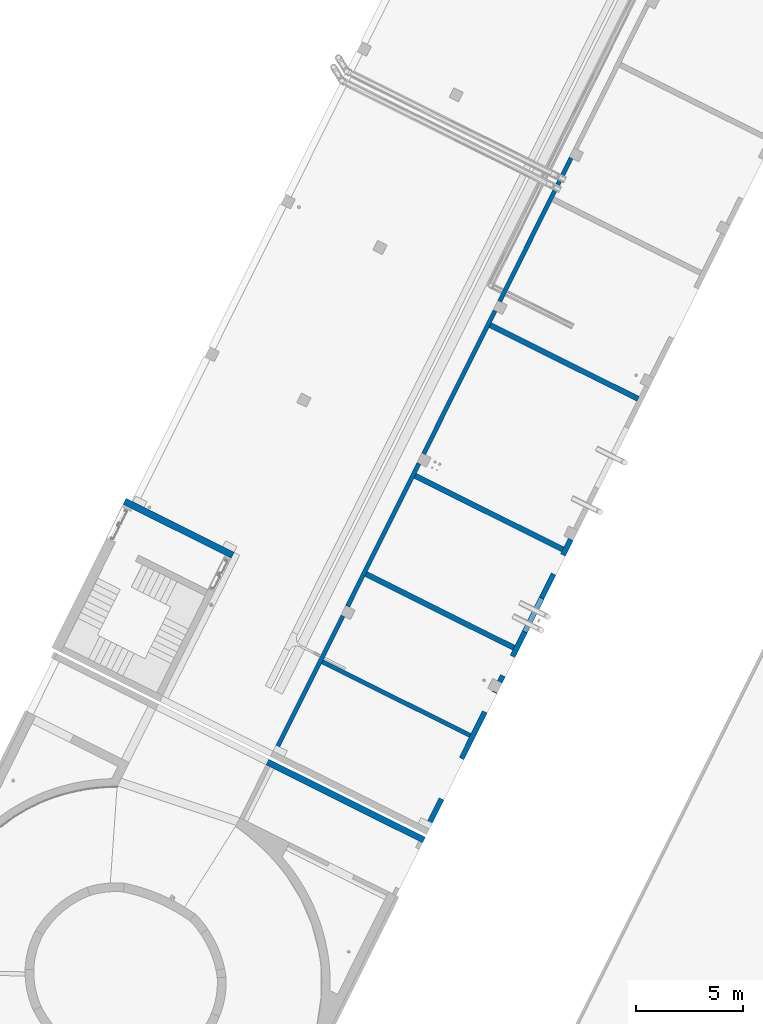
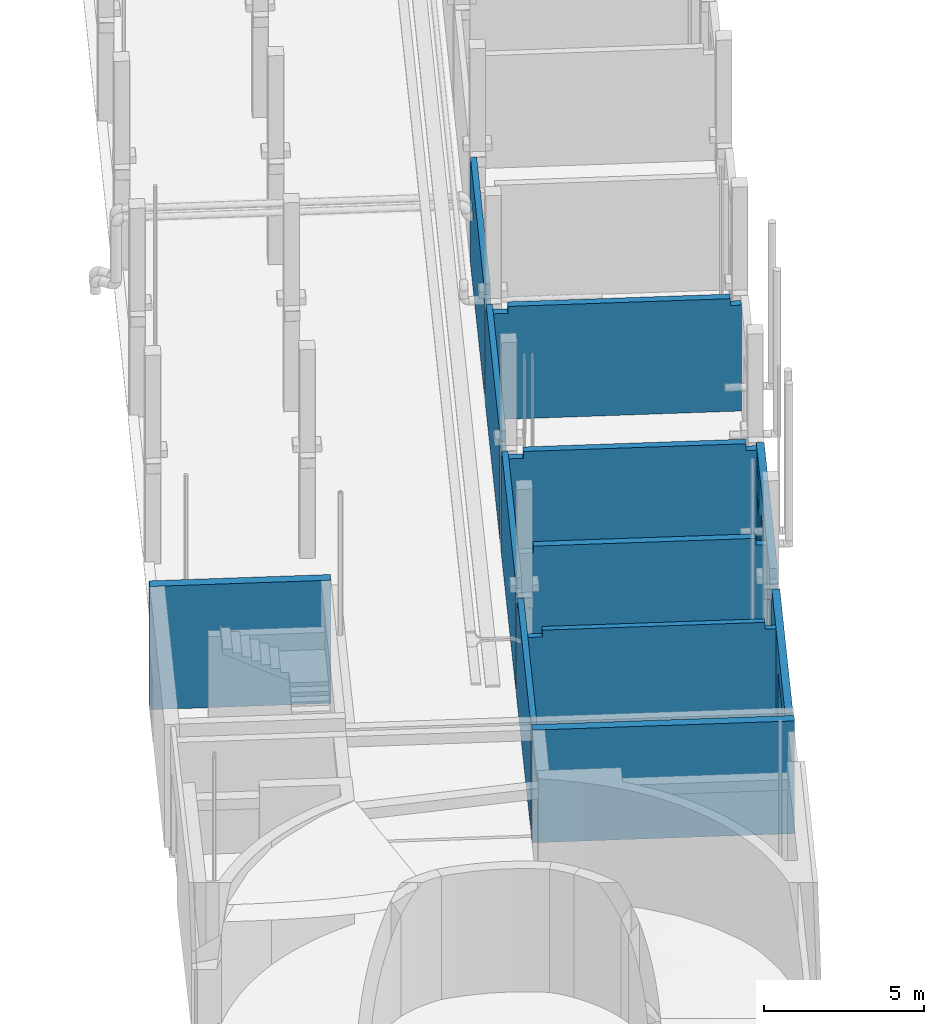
# One storey, part 10 of 91: 12 walls, 26 openings.
"""IFC2X3 building model written with IfcOpenShell, lengths in metres."""

from ifc_helpers import new_model, entity, si_unit, converted_unit, derived_unit, direction, frame, frame_2d, origin, origin_2d_with_axis, place, context, subcontext, project, spatial, polyline, rectangle, circle, outline, extrude, clip, halfspace, bounded_halfspace, material, layer, layer_set, layer_usage, type_object, element, save


model = new_model("IFC2X3")

# Units and contexts
model_context = context("Model", 3, precision=1e-05, world=origin(), true_north=direction((0.894925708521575, 0.446215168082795)))
context_of_model = context(None, 3, precision=1e-05, world=origin(), true_north=direction((0.894925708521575, 0.446215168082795)))
body_context = subcontext(model_context, "Body", "Model", "MODEL_VIEW")
ifc_project = project(units=[si_unit("LENGTHUNIT", "METRE"), si_unit("AREAUNIT", "SQUARE_METRE"), si_unit("VOLUMEUNIT", "CUBIC_METRE"), converted_unit("PLANEANGLEUNIT", "DEGREE", entity("IfcRatioMeasure", 0.0174532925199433), si_unit("PLANEANGLEUNIT", "RADIAN"), dimensions=[0, 0, 0, 0, 0, 0, 0]), si_unit("MASSUNIT", "GRAM", prefix="KILO"), si_unit("TIMEUNIT", "SECOND"), si_unit("FREQUENCYUNIT", "HERTZ"), si_unit("THERMODYNAMICTEMPERATUREUNIT", "DEGREE_CELSIUS"), derived_unit("THERMALTRANSMITTANCEUNIT", [(si_unit("MASSUNIT", "GRAM", prefix="KILO"), 1), (si_unit("THERMODYNAMICTEMPERATUREUNIT", "KELVIN"), -1), (si_unit("TIMEUNIT", "SECOND"), -3)]), derived_unit("VOLUMETRICFLOWRATEUNIT", [(si_unit("LENGTHUNIT", "METRE"), 3), (si_unit("TIMEUNIT", "SECOND"), -1)]), si_unit("ELECTRICCURRENTUNIT", "AMPERE"), si_unit("ELECTRICVOLTAGEUNIT", "VOLT"), si_unit("POWERUNIT", "WATT"), si_unit("FORCEUNIT", "NEWTON", prefix="KILO"), si_unit("ILLUMINANCEUNIT", "LUX"), si_unit("LUMINOUSFLUXUNIT", "LUMEN"), si_unit("LUMINOUSINTENSITYUNIT", "CANDELA"), si_unit("PRESSUREUNIT", "PASCAL")], contexts=[model_context, context_of_model])

# Site, building, storey
site_placement = place(None, frame((218.228324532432, 584.720189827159, 0.0), z_axis=(0.0, 0.0, 1.0), x_axis=(0.446215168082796, 0.894925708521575, 0.0)))
site = spatial("IfcSite", under=ifc_project, at=site_placement, Name="Default", CompositionType="ELEMENT")
building_placement = place(site_placement, origin())
building = spatial("IfcBuilding", under=site, at=building_placement, CompositionType="ELEMENT")
storey_placement = place(building_placement, origin())
storey = spatial("IfcBuildingStorey", under=building, at=storey_placement, Name="0 - Piano Terra", CompositionType="ELEMENT", Elevation=0.0)

# Wall
ifc_material_1 = material(Name="Default - Calcestruzzo")
ifc_layer_1 = layer(ifc_material_1, 0.3)
ifc_material_2 = material(Name="Intonaco - Bianco")
ifc_layer_2 = layer(ifc_material_2, 0.01)
ifc_layer_set_1 = layer_set([ifc_layer_1, ifc_layer_2], Name="Muro di base:Setto CA rivestito int - 31 cm")
ifc_layer_usage_1 = layer_usage(ifc_layer_set_1, "AXIS2", "NEGATIVE", 0.155)
wall_type_1 = type_object("IfcWallType", Name="Muro di base:Setto CA rivestito int - 31 cm", PredefinedType="STANDARD", material=ifc_layer_set_1)
wall_1_placement = place(storey_placement, frame((-52.8544493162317, 6.45892100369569, 0.0), z_axis=(0.0, 0.0, 1.0), x_axis=(0.0, -1.0, 0.0)))
element("IfcWallStandardCase", 1, at=wall_1_placement, inside=storey, type_object=wall_type_1, material=ifc_layer_usage_1, Name="Muro di base:Setto CA rivestito int - 31 cm", ObjectType="Muro di base:Setto CA rivestito int - 31 cm", context=body_context, shape_type="SweptSolid", body=[
    extrude(rectangle(XDim=5.65999999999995, YDim=0.309999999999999, at=frame_2d((2.82999999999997, 0.0), x_axis=(-1.0, 0.0))), origin(), (0.0, 0.0, 1.0), 4.69),
])

# Wall, openings
ifc_material_3 = material(Name="Sabbia e Calcestruzzo")
ifc_layer_3 = layer(ifc_material_3, 0.2)
ifc_layer_set_2 = layer_set([ifc_layer_3], Name="Muro di base:Blocchetti - 20 cm")
ifc_layer_usage_2 = layer_usage(ifc_layer_set_2, "AXIS2", "NEGATIVE", 0.1)
wall_type_2 = type_object("IfcWallType", Name="Muro di base:Blocchetti - 20 cm", PredefinedType="STANDARD", material=ifc_layer_set_2)
wall_2_placement = place(storey_placement, frame((-60.2294493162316, -5.10107899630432, 0.0)))
wall_2 = element("IfcWallStandardCase", 2, at=wall_2_placement, inside=storey, type_object=wall_type_2, material=ifc_layer_usage_2, Name="Muro di base:Blocchetti - 20 cm", ObjectType="Muro di base:Blocchetti - 20 cm", context=body_context, shape_type="Clipping", body=[
    clip(clip(extrude(rectangle(XDim=7.13568790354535, YDim=0.2, at=frame_2d((3.56784395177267, -4.85722573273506e-17), x_axis=(-1.0, 0.0))), origin(), (0.0, 0.0, 1.0), 4.03), halfspace(frame((0.299700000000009, 0.0, 4.03), z_axis=(-0.80028801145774, 0.0, 0.599615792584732), x_axis=(0.0, 1.0, 0.0)), False)), halfspace(frame((7.13568790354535, 0.0, 3.63000000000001), z_axis=(0.799999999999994, 0.0, 0.600000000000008), x_axis=(0.0, 1.0, 0.0)), False)),
])
opening_1_placement = place(wall_2_placement, origin())
element("IfcOpeningElement", 3, at=opening_1_placement, cuts=wall_2, Name="Muro di base:Blocchetti - 20 cm", ObjectType="Opening", context=body_context, shape_type="SweptSolid", body=[
    extrude(outline(polyline([(-0.226666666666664, -0.0799999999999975), (0.273333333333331, -0.0799999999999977), (-0.0466666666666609, 0.160000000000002), (-0.226666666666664, -0.0799999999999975)])), frame((6.93568790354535, 0.1, 3.76333333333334), z_axis=(0.0, -1.0, 0.0), x_axis=(-0.600000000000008, 0.0, 0.799999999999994)), (0.0, 0.0, 1.0), 0.2),
])
opening_2_placement = place(wall_2_placement, origin())
element("IfcOpeningElement", 4, at=opening_2_placement, cuts=wall_2, Name="Muro di base:Blocchetti - 20 cm", ObjectType="Opening", context=body_context, shape_type="SweptSolid", body=[
    extrude(outline(polyline([(-0.273311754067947, -0.0799487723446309), (0.226508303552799, -0.0799487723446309), (0.0468034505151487, 0.159897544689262), (-0.273311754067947, -0.0799487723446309)])), frame((0.199800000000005, 0.1, 3.76333333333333), z_axis=(0.0, -1.0, 0.0), x_axis=(-0.599615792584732, 0.0, -0.80028801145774)), (0.0, 0.0, 1.0), 0.2),
])

ifc_layer_usage_3 = layer_usage(ifc_layer_set_2, "AXIS2", "NEGATIVE", 0.1)
wall_3_placement = place(storey_placement, frame((-52.5937614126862, -5.10107899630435, 0.0)))
wall_3 = element("IfcWallStandardCase", 5, at=wall_3_placement, inside=storey, type_object=wall_type_2, material=ifc_layer_usage_3, Name="Muro di base:Blocchetti - 20 cm", ObjectType="Muro di base:Blocchetti - 20 cm", context=body_context, shape_type="Clipping", body=[
    clip(clip(extrude(rectangle(XDim=7.49309550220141, YDim=0.2, at=frame_2d((3.74654775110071, 1.38777878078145e-16), x_axis=(-1.0, 0.0))), origin(), (0.0, 0.0, 1.0), 4.03), halfspace(frame((7.49309550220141, 0.0, 3.63000000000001), z_axis=(0.799999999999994, 0.0, 0.600000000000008), x_axis=(0.0, 1.0, 0.0)), False)), halfspace(frame((0.3, 0.0, 4.03), z_axis=(-0.799999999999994, 0.0, 0.600000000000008), x_axis=(0.0, 1.0, 0.0)), False)),
])
opening_3_placement = place(wall_3_placement, origin())
element("IfcOpeningElement", 6, at=opening_3_placement, cuts=wall_3, Name="Muro di base:Blocchetti - 20 cm", ObjectType="Opening", context=body_context, shape_type="SweptSolid", body=[
    extrude(outline(polyline([(-0.226666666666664, -0.0799999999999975), (0.273333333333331, -0.0799999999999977), (-0.0466666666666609, 0.160000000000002), (-0.226666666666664, -0.0799999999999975)])), frame((7.29309550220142, 0.100000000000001, 3.76333333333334), z_axis=(0.0, -1.0, 0.0), x_axis=(-0.600000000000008, 0.0, 0.799999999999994)), (0.0, 0.0, 1.0), 0.2),
])
opening_4_placement = place(wall_3_placement, origin())
element("IfcOpeningElement", 7, at=opening_4_placement, cuts=wall_3, Name="Muro di base:Blocchetti - 20 cm", ObjectType="Opening", context=body_context, shape_type="SweptSolid", body=[
    extrude(outline(polyline([(-0.273333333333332, -0.0799999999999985), (0.226666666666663, -0.0799999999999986), (0.0466666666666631, 0.160000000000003), (-0.273333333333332, -0.0799999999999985)])), frame((0.199999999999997, 0.0999999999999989, 3.76333333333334), z_axis=(0.0, -1.0, 0.0), x_axis=(-0.600000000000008, 0.0, -0.799999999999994)), (0.0, 0.0, 1.0), 0.2),
])

ifc_layer_usage_4 = layer_usage(ifc_layer_set_2, "AXIS2", "NEGATIVE", 0.1)
wall_4_placement = place(storey_placement, frame((-44.6006659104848, -5.10107899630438, 0.0)))
wall_4 = element("IfcWallStandardCase", 8, at=wall_4_placement, inside=storey, type_object=wall_type_2, material=ifc_layer_usage_4, Name="Muro di base:Blocchetti - 20 cm", ObjectType="Muro di base:Blocchetti - 20 cm", context=body_context, shape_type="Clipping", body=[
    clip(clip(extrude(rectangle(XDim=7.50281382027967, YDim=0.2, at=frame_2d((3.75140691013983, 0.0), x_axis=(-1.0, 0.0))), origin(), (0.0, 0.0, 1.0), 4.03), halfspace(frame((7.50281382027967, 0.0, 3.63000000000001), z_axis=(0.79999999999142, 0.0, 0.60000000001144), x_axis=(0.0, 1.0, 0.0)), False)), halfspace(frame((0.299999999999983, 0.0, 4.03), z_axis=(-0.800000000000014, 0.0, 0.599999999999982), x_axis=(0.0, 1.0, 0.0)), False)),
])
opening_5_placement = place(wall_4_placement, origin())
element("IfcOpeningElement", 9, at=opening_5_placement, cuts=wall_4, Name="Muro di base:Blocchetti - 20 cm", ObjectType="Opening", context=body_context, shape_type="SweptSolid", body=[
    extrude(circle(Radius=0.125, at=origin_2d_with_axis()), frame((0.774999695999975, 0.1, 3.29999999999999), z_axis=(0.0, -1.0, 0.0), x_axis=(-1.0, 0.0, 0.0)), (0.0, 0.0, 1.0), 0.2),
])
opening_6_placement = place(wall_4_placement, origin())
element("IfcOpeningElement", 10, at=opening_6_placement, cuts=wall_4, Name="Muro di base:Blocchetti - 20 cm", ObjectType="Opening", context=body_context, shape_type="SweptSolid", body=[
    extrude(outline(polyline([(-0.226666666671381, -0.0800000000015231), (0.273333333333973, -0.080000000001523), (-0.046666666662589, 0.160000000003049), (-0.226666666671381, -0.0800000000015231)])), frame((7.30281382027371, 0.100000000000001, 3.76333333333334), z_axis=(0.0, -1.0, 0.0), x_axis=(-0.60000000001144, 0.0, 0.79999999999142)), (0.0, 0.0, 1.0), 0.2),
])
opening_7_placement = place(wall_4_placement, origin())
element("IfcOpeningElement", 11, at=opening_7_placement, cuts=wall_4, Name="Muro di base:Blocchetti - 20 cm", ObjectType="Opening", context=body_context, shape_type="SweptSolid", body=[
    extrude(outline(polyline([(-0.273333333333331, -0.0799999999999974), (0.226666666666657, -0.0799999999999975), (0.0466666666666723, 0.159999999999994), (-0.273333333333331, -0.0799999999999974)])), frame((0.199999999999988, 0.1, 3.76333333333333), z_axis=(0.0, -1.0, 0.0), x_axis=(-0.599999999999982, 0.0, -0.800000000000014)), (0.0, 0.0, 1.0), 0.2),
])

ifc_layer_usage_5 = layer_usage(ifc_layer_set_2, "AXIS2", "NEGATIVE", 0.1)
wall_5_placement = place(storey_placement, frame((-36.5978520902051, -5.1010789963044, 0.0)))
wall_5 = element("IfcWallStandardCase", 12, at=wall_5_placement, inside=storey, type_object=wall_type_2, material=ifc_layer_usage_5, Name="Muro di base:Blocchetti - 20 cm", ObjectType="Muro di base:Blocchetti - 20 cm", context=body_context, shape_type="Clipping", body=[
    clip(clip(extrude(rectangle(XDim=7.50563159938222, YDim=0.2, at=frame_2d((3.75281579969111, 0.0), x_axis=(-1.0, 0.0))), origin(), (0.0, 0.0, 1.0), 4.03), halfspace(frame((7.50563159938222, 0.0, 3.63000000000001), z_axis=(0.79999999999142, 0.0, 0.60000000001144), x_axis=(0.0, 1.0, 0.0)), False)), halfspace(frame((0.299999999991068, 0.0, 4.03), z_axis=(-0.800000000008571, 0.0, 0.599999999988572), x_axis=(0.0, 1.0, 0.0)), False)),
])
opening_8_placement = place(wall_5_placement, origin())
element("IfcOpeningElement", 13, at=opening_8_placement, cuts=wall_5, Name="Muro di base:Blocchetti - 20 cm", ObjectType="Opening", context=body_context, shape_type="SweptSolid", body=[
    extrude(circle(Radius=0.17, at=frame_2d((0.0, -5.41433564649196e-16), x_axis=(1.0, 0.0))), frame((6.45563159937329, 0.1, 2.67), z_axis=(0.0, -1.0, 0.0), x_axis=(-1.0, 0.0, 0.0)), (0.0, 0.0, 1.0), 0.2),
])
opening_9_placement = place(wall_5_placement, origin())
element("IfcOpeningElement", 14, at=opening_9_placement, cuts=wall_5, Name="Muro di base:Blocchetti - 20 cm", ObjectType="Opening", context=body_context, shape_type="SweptSolid", body=[
    extrude(circle(Radius=0.17, at=frame_2d((0.0, -5.41433564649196e-16), x_axis=(1.0, 0.0))), frame((5.95563159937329, 0.1, 2.67), z_axis=(0.0, -1.0, 0.0), x_axis=(-1.0, 0.0, 0.0)), (0.0, 0.0, 1.0), 0.2),
])
opening_10_placement = place(wall_5_placement, origin())
element("IfcOpeningElement", 15, at=opening_10_placement, cuts=wall_5, Name="Muro di base:Blocchetti - 20 cm", ObjectType="Opening", context=body_context, shape_type="SweptSolid", body=[
    extrude(outline(polyline([(-0.226666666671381, -0.0800000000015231), (0.273333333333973, -0.080000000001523), (-0.046666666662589, 0.160000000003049), (-0.226666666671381, -0.0800000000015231)])), frame((7.30563159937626, 0.0999999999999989, 3.76333333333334), z_axis=(0.0, -1.0, 0.0), x_axis=(-0.60000000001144, 0.0, 0.79999999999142)), (0.0, 0.0, 1.0), 0.2),
])
opening_11_placement = place(wall_5_placement, origin())
element("IfcOpeningElement", 16, at=opening_11_placement, cuts=wall_5, Name="Muro di base:Blocchetti - 20 cm", ObjectType="Opening", context=body_context, shape_type="SweptSolid", body=[
    extrude(outline(polyline([(-0.273333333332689, -0.0799999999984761), (0.22666666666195, -0.0799999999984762), (0.0466666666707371, 0.159999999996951), (-0.273333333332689, -0.0799999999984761)])), frame((0.199999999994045, 0.1, 3.76333333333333), z_axis=(0.0, -1.0, 0.0), x_axis=(-0.599999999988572, 0.0, -0.800000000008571)), (0.0, 0.0, 1.0), 0.2),
])

ifc_layer_usage_6 = layer_usage(ifc_layer_set_2, "AXIS2", "NEGATIVE", 0.1)
wall_6_placement = place(storey_placement, frame((-55.4537571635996, -12.9510789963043, 0.0), z_axis=(0.0, 0.0, 1.0), x_axis=(0.0, 1.0, 0.0)))
wall_6 = element("IfcWallStandardCase", 17, at=wall_6_placement, inside=storey, type_object=wall_type_2, material=ifc_layer_usage_6, Name="Muro di base:Blocchetti - 20 cm", ObjectType="Muro di base:Blocchetti - 20 cm", context=body_context, shape_type="Clipping", body=[
    clip(clip(extrude(rectangle(XDim=7.74999999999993, YDim=0.200000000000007, at=frame_2d((3.87499999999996, 0.0), x_axis=(-1.0, 0.0))), origin(), (0.0, 0.0, 1.0), 4.29), halfspace(frame((0.34999999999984, 0.0, 4.29), z_axis=(-0.480145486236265, 0.0, 0.877188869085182), x_axis=(0.0, 1.0, 0.0)), False)), halfspace(frame((7.84999999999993, 0.0, 4.03), z_axis=(0.427379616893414, 0.0, 0.904072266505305), x_axis=(0.0, 1.0, 0.0)), False)),
])
opening_12_placement = place(wall_6_placement, origin())
element("IfcOpeningElement", 18, at=opening_12_placement, cuts=wall_6, Name="Muro di base:Blocchetti - 20 cm", ObjectType="Opening", context=body_context, shape_type="SweptSolid", body=[
    extrude(outline(polyline([(-0.368532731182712, -0.0783529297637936), (0.239825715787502, -0.0783529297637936), (0.128707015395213, 0.156705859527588), (-0.368532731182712, -0.0783529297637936)])), frame((7.48333333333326, 0.100000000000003, 4.11666666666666), z_axis=(0.0, -1.0, 0.0), x_axis=(-0.904072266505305, 0.0, 0.427379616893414)), (0.0, 0.0, 1.0), 0.2),
])
opening_13_placement = place(wall_6_placement, origin())
element("IfcOpeningElement", 19, at=opening_13_placement, cuts=wall_6, Name="Muro di base:Blocchetti - 20 cm", ObjectType="Opening", context=body_context, shape_type="SweptSolid", body=[
    extrude(outline(polyline([(-0.222113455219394, -0.0760230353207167), (0.319389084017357, -0.0760230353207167), (-0.0972756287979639, 0.152046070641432), (-0.222113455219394, -0.0760230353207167)])), frame((0.19166666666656, 0.100000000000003, 4.11666666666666), z_axis=(0.0, -1.0, 0.0), x_axis=(-0.877188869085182, 0.0, -0.480145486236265)), (0.0, 0.0, 1.0), 0.2),
])

ifc_layer_4 = layer(ifc_material_3, 0.25)
ifc_layer_set_3 = layer_set([ifc_layer_4], Name="Muro di base:Blocchetti - 25 cm")
ifc_layer_usage_7 = layer_usage(ifc_layer_set_3, "AXIS2", "NEGATIVE", 0.125)
wall_type_3 = type_object("IfcWallType", Name="Muro di base:Blocchetti - 25 cm", PredefinedType="STANDARD", material=ifc_layer_set_3)
wall_7_placement = place(storey_placement, frame((-53.1037614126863, -13.0760789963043, 0.0), z_axis=(0.0, 0.0, 1.0), x_axis=(-1.0, 0.0, 0.0)))
wall_7 = element("IfcWallStandardCase", 20, at=wall_7_placement, inside=storey, type_object=wall_type_3, material=ifc_layer_usage_7, Name="Muro di base:Blocchetti - 25 cm", ObjectType="Muro di base:Blocchetti - 25 cm", context=body_context, shape_type="Clipping", body=[
    clip(clip(extrude(rectangle(XDim=7.12568790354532, YDim=0.249999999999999, at=frame_2d((3.56284395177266, 0.0), x_axis=(-1.0, 0.0))), origin(), (0.0, 0.0, 1.0), 4.03000000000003), halfspace(frame((7.12568790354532, 0.0, 3.63), z_axis=(0.800288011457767, 0.0, 0.599615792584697), x_axis=(0.0, 1.0, 0.0)), False)), halfspace(frame((0.299999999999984, 0.0, 4.03), z_axis=(-0.800000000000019, 0.0, 0.599999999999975), x_axis=(0.0, 1.0, 0.0)), False)),
])
opening_14_placement = place(wall_7_placement, frame((5.61999575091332, 1.399, 0.0)))
element("IfcOpeningElement", 21, at=opening_14_placement, cuts=wall_7, Name="Muro di base:Blocchetti - 25 cm", ObjectType="Opening", context=body_context, shape_type="SweptSolid", body=[
    extrude(rectangle(XDim=3.1, YDim=2.12, at=frame_2d((0.0, 0.0), x_axis=(0.0, 1.0))), frame((-1.06, -3.048, 1.55), z_axis=(0.0, 1.0, 0.0), x_axis=(1.0, 0.0, 0.0)), (0.0, 0.0, 1.0), 3.048),
])
opening_15_placement = place(wall_7_placement, frame((1.04999575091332, 1.399, 0.0)))
element("IfcOpeningElement", 22, at=opening_15_placement, cuts=wall_7, Name="Muro di base:Blocchetti - 25 cm", ObjectType="Opening", context=body_context, shape_type="SweptSolid", body=[
    extrude(rectangle(XDim=2.46, YDim=1.02, at=frame_2d((4.32986979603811e-15, 0.0), x_axis=(0.0, 1.0))), frame((-0.510000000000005, -3.048, 1.23), z_axis=(0.0, 1.0, 0.0), x_axis=(1.0, 0.0, 0.0)), (0.0, 0.0, 1.0), 3.048),
])
opening_16_placement = place(wall_7_placement, origin())
element("IfcOpeningElement", 23, at=opening_16_placement, cuts=wall_7, Name="Muro di base:Blocchetti - 25 cm", ObjectType="Opening", context=body_context, shape_type="SweptSolid", body=[
    extrude(outline(polyline([(-0.226508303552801, -0.0799487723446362), (0.27331175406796, -0.0799487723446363), (-0.046803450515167, 0.159897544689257), (-0.226508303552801, -0.0799487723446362)])), frame((6.92588790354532, 0.125, 3.76333333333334), z_axis=(0.0, -1.0, 0.0), x_axis=(-0.599615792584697, 0.0, 0.800288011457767)), (0.0, 0.0, 1.0), 0.25),
])
opening_17_placement = place(wall_7_placement, origin())
element("IfcOpeningElement", 24, at=opening_17_placement, cuts=wall_7, Name="Muro di base:Blocchetti - 25 cm", ObjectType="Opening", context=body_context, shape_type="SweptSolid", body=[
    extrude(outline(polyline([(-0.27333333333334, -0.0799999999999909), (0.226666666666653, -0.0799999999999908), (0.0466666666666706, 0.160000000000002), (-0.27333333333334, -0.0799999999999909)])), frame((0.199999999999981, 0.125, 3.76333333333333), z_axis=(0.0, -1.0, 0.0), x_axis=(-0.599999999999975, 0.0, -0.800000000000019)), (0.0, 0.0, 1.0), 0.25),
])

ifc_layer_usage_8 = layer_usage(ifc_layer_set_3, "AXIS2", "NEGATIVE", 0.125)
wall_8_placement = place(storey_placement, frame((-45.1106659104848, -13.0760789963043, 0.0), z_axis=(0.0, 0.0, 1.0), x_axis=(-1.0, 0.0, 0.0)))
wall_8 = element("IfcWallStandardCase", 25, at=wall_8_placement, inside=storey, type_object=wall_type_3, material=ifc_layer_usage_8, Name="Muro di base:Blocchetti - 25 cm", ObjectType="Muro di base:Blocchetti - 25 cm", context=body_context, shape_type="Clipping", body=[
    clip(clip(extrude(rectangle(XDim=7.47309550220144, YDim=0.249999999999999, at=frame_2d((3.73654775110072, 0.0), x_axis=(-1.0, 0.0))), origin(), (0.0, 0.0, 1.0), 4.03000000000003), halfspace(frame((0.300000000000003, 0.0, 4.03), z_axis=(-0.799999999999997, 0.0, 0.600000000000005), x_axis=(0.0, 1.0, 0.0)), False)), halfspace(frame((7.47309550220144, 0.0, 3.63), z_axis=(0.800000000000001, 0.0, 0.599999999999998), x_axis=(0.0, 1.0, 0.0)), False)),
])
opening_18_placement = place(wall_8_placement, frame((5.13309550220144, 0.125000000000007, 2.04)))
element("IfcOpeningElement", 26, at=opening_18_placement, cuts=wall_8, Name="Muro di base:Blocchetti - 25 cm", ObjectType="Opening", context=body_context, shape_type="SweptSolid", body=[
    extrude(rectangle(XDim=1.02, YDim=2.32, at=frame_2d((-1.11022302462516e-16, 4.32986979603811e-15), x_axis=(1.0, 0.0))), frame((-1.15999999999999, -0.250000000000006, 0.51), z_axis=(0.0, 1.0, 0.0), x_axis=(0.0, 0.0, -1.0)), (0.0, 0.0, 1.0), 0.249999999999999),
])
opening_19_placement = place(wall_8_placement, frame((7.1487675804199, 1.399, 0.0)))
element("IfcOpeningElement", 27, at=opening_19_placement, cuts=wall_8, Name="Muro di base:Blocchetti - 25 cm", ObjectType="Opening", context=body_context, shape_type="SweptSolid", body=[
    extrude(rectangle(XDim=2.46, YDim=1.02, at=frame_2d((4.32986979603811e-15, 0.0), x_axis=(0.0, 1.0))), frame((-0.510000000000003, -3.048, 1.23), z_axis=(0.0, 1.0, 0.0), x_axis=(1.0, 0.0, 0.0)), (0.0, 0.0, 1.0), 3.048),
])
opening_20_placement = place(wall_8_placement, frame((1.81469701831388, 1.399, 0.0)))
element("IfcOpeningElement", 28, at=opening_20_placement, cuts=wall_8, Name="Muro di base:Blocchetti - 25 cm", ObjectType="Opening", context=body_context, shape_type="SweptSolid", body=[
    extrude(rectangle(XDim=2.25, YDim=0.999999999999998, at=frame_2d((0.0, 0.0), x_axis=(0.0, 1.0))), frame((-0.500000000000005, -3.048, 1.125), z_axis=(0.0, 1.0, 0.0), x_axis=(1.0, 0.0, 0.0)), (0.0, 0.0, 1.0), 3.048),
])
opening_21_placement = place(wall_8_placement, frame((4.84469701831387, 1.39900000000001, 0.1)))
element("IfcOpeningElement", 29, at=opening_21_placement, cuts=wall_8, Name="Muro di base:Blocchetti - 25 cm", ObjectType="Opening", context=body_context, shape_type="SweptSolid", body=[
    extrude(rectangle(XDim=1.94, YDim=1.77, at=frame_2d((0.0, 0.0), x_axis=(0.0, 1.0))), frame((-0.884999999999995, -3.04800000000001, 0.97), z_axis=(0.0, 1.0, 0.0), x_axis=(1.0, 0.0, 0.0)), (0.0, 0.0, 1.0), 3.048),
])
opening_22_placement = place(wall_8_placement, frame((1.81469701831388, 1.399, 2.44)))
element("IfcOpeningElement", 30, at=opening_22_placement, cuts=wall_8, Name="Muro di base:Blocchetti - 25 cm", ObjectType="Opening", context=body_context, shape_type="SweptSolid", body=[
    extrude(rectangle(XDim=1.07, YDim=0.999999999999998, at=frame_2d((0.0, 0.0), x_axis=(0.0, 1.0))), frame((-0.500000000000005, -3.048, 0.535), z_axis=(0.0, 1.0, 0.0), x_axis=(1.0, 0.0, 0.0)), (0.0, 0.0, 1.0), 3.048),
])
opening_23_placement = place(wall_8_placement, origin())
element("IfcOpeningElement", 31, at=opening_23_placement, cuts=wall_8, Name="Muro di base:Blocchetti - 25 cm", ObjectType="Opening", context=body_context, shape_type="SweptSolid", body=[
    extrude(circle(Radius=0.160000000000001, at=origin_2d_with_axis()), frame((4.43102930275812, 0.125, 3.04999999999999), z_axis=(0.0, -1.0, 0.0), x_axis=(-1.0, 0.0, 0.0)), (0.0, 0.0, 1.0), 0.25),
])
opening_24_placement = place(wall_8_placement, origin())
element("IfcOpeningElement", 32, at=opening_24_placement, cuts=wall_8, Name="Muro di base:Blocchetti - 25 cm", ObjectType="Opening", context=body_context, shape_type="SweptSolid", body=[
    extrude(circle(Radius=0.160000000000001, at=origin_2d_with_axis()), frame((3.72630032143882, 0.125, 3.04999999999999), z_axis=(0.0, -1.0, 0.0), x_axis=(-1.0, 0.0, 0.0)), (0.0, 0.0, 1.0), 0.25),
])
opening_25_placement = place(wall_8_placement, origin())
element("IfcOpeningElement", 33, at=opening_25_placement, cuts=wall_8, Name="Muro di base:Blocchetti - 25 cm", ObjectType="Opening", context=body_context, shape_type="SweptSolid", body=[
    extrude(outline(polyline([(-0.226666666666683, -0.0800000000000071), (0.273333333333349, -0.0800000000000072), (-0.0466666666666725, 0.160000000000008), (-0.226666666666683, -0.0800000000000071)])), frame((7.27309550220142, 0.125, 3.76333333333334), z_axis=(0.0, -1.0, 0.0), x_axis=(-0.599999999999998, 0.0, 0.800000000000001)), (0.0, 0.0, 1.0), 0.25),
])
opening_26_placement = place(wall_8_placement, origin())
element("IfcOpeningElement", 34, at=opening_26_placement, cuts=wall_8, Name="Muro di base:Blocchetti - 25 cm", ObjectType="Opening", context=body_context, shape_type="SweptSolid", body=[
    extrude(outline(polyline([(-0.273333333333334, -0.079999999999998), (0.226666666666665, -0.079999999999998), (0.0466666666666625, 0.160000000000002), (-0.273333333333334, -0.079999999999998)])), frame((0.199999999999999, 0.125000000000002, 3.76333333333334), z_axis=(0.0, -1.0, 0.0), x_axis=(-0.600000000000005, 0.0, -0.799999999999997)), (0.0, 0.0, 1.0), 0.25),
])

# Walls
ifc_layer_usage_9 = layer_usage(ifc_layer_set_3, "AXIS2", "NEGATIVE", 0.125)
wall_9_placement = place(storey_placement, frame((-50.8544334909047, -12.9510789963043, 0.0), z_axis=(0.0, 0.0, 1.0), x_axis=(0.0, 1.0, 0.0)))
element("IfcWallStandardCase", 35, at=wall_9_placement, inside=storey, type_object=wall_type_3, material=ifc_layer_usage_9, Name="Muro di base:Blocchetti - 25 cm", ObjectType="Muro di base:Blocchetti - 25 cm", context=body_context, shape_type="Clipping", body=[
    clip(clip(clip(clip(extrude(rectangle(XDim=7.74999999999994, YDim=0.249999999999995, at=frame_2d((3.87499999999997, 0.0), x_axis=(-1.0, 0.0))), origin(), (0.0, 0.0, 1.0), 4.29), bounded_halfspace(frame((0.350000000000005, -0.125000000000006, 4.03), z_axis=(0.0, 0.0, -1.0), x_axis=(0.0, 1.0, 0.0)), True, frame((0.350000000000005, -0.125000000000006, 4.03), z_axis=(0.0, 0.0, -1.0), x_axis=(0.0, 1.0, 0.0)), polyline([(0.0, 0.0), (0.0, -0.350000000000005), (0.250000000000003, -0.350000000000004), (0.250000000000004, 0.0), (0.0, 0.0)]))), bounded_halfspace(frame((0.350000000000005, 0.124999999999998, 4.03), z_axis=(1.0, 0.0, 0.0), x_axis=(0.0, 1.0, 0.0)), True, frame((0.350000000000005, 0.124999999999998, 4.03), z_axis=(1.0, 0.0, 0.0), x_axis=(0.0, 1.0, 0.0)), polyline([(0.0, 0.0), (0.0, 0.260000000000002), (-0.250000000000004, 0.260000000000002), (-0.250000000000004, 0.0), (0.0, 0.0)]))), bounded_halfspace(frame((7.29999999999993, -0.125000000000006, 4.03), z_axis=(-1.0, 0.0, 0.0), x_axis=(0.0, 1.0, 0.0)), True, frame((7.29999999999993, -0.125000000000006, 4.03), z_axis=(-1.0, 0.0, 0.0), x_axis=(0.0, 1.0, 0.0)), polyline([(0.0, 0.0), (0.0, -0.260000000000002), (0.250000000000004, -0.260000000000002), (0.250000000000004, 0.0), (0.0, 0.0)]))), bounded_halfspace(frame((7.29999999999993, 0.124999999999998, 4.03), z_axis=(0.0, 0.0, -1.0), x_axis=(0.0, 1.0, 0.0)), True, frame((7.29999999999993, 0.124999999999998, 4.03), z_axis=(0.0, 0.0, -1.0), x_axis=(0.0, 1.0, 0.0)), polyline([(0.0, 0.0), (0.0, 0.450000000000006), (-0.250000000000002, 0.450000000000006), (-0.250000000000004, 0.0), (0.0, 0.0)]))),
])
ifc_layer_usage_10 = layer_usage(ifc_layer_set_3, "AXIS2", "NEGATIVE", 0.125)
wall_10_placement = place(storey_placement, frame((-45.7003629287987, -12.9510789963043, 0.0), z_axis=(0.0, 0.0, 1.0), x_axis=(0.0, 1.0, 0.0)))
element("IfcWallStandardCase", 36, at=wall_10_placement, inside=storey, type_object=wall_type_3, material=ifc_layer_usage_10, Name="Muro di base:Blocchetti - 25 cm", ObjectType="Muro di base:Blocchetti - 25 cm", context=body_context, shape_type="Clipping", body=[
    clip(clip(clip(clip(extrude(rectangle(XDim=7.74999999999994, YDim=0.249999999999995, at=frame_2d((3.87499999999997, 0.0), x_axis=(-1.0, 0.0))), origin(), (0.0, 0.0, 1.0), 4.29), bounded_halfspace(frame((0.350000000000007, -0.125000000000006, 4.03), z_axis=(0.0, 0.0, -1.0), x_axis=(0.0, 1.0, 0.0)), True, frame((0.350000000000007, -0.125000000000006, 4.03), z_axis=(0.0, 0.0, -1.0), x_axis=(0.0, 1.0, 0.0)), polyline([(0.0, 0.0), (0.0, -0.350000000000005), (0.250000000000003, -0.350000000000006), (0.250000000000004, 0.0), (0.0, 0.0)]))), bounded_halfspace(frame((0.350000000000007, 0.124999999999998, 4.03), z_axis=(1.0, 0.0, 0.0), x_axis=(0.0, 1.0, 0.0)), True, frame((0.350000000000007, 0.124999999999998, 4.03), z_axis=(1.0, 0.0, 0.0), x_axis=(0.0, 1.0, 0.0)), polyline([(0.0, 0.0), (0.0, 0.260000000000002), (-0.250000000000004, 0.260000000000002), (-0.250000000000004, 0.0), (0.0, 0.0)]))), bounded_halfspace(frame((7.29999999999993, -0.125000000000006, 4.03), z_axis=(-1.0, 0.0, 0.0), x_axis=(0.0, 1.0, 0.0)), True, frame((7.29999999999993, -0.125000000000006, 4.03), z_axis=(-1.0, 0.0, 0.0), x_axis=(0.0, 1.0, 0.0)), polyline([(0.0, 0.0), (0.0, -0.260000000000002), (0.250000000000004, -0.260000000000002), (0.250000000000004, 0.0), (0.0, 0.0)]))), bounded_halfspace(frame((7.29999999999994, 0.124999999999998, 4.03), z_axis=(0.0, 0.0, -1.0), x_axis=(0.0, 1.0, 0.0)), True, frame((7.29999999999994, 0.124999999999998, 4.03), z_axis=(0.0, 0.0, -1.0), x_axis=(0.0, 1.0, 0.0)), polyline([(0.0, 0.0), (0.0, 0.450000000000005), (-0.250000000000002, 0.450000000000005), (-0.250000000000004, 0.0), (0.0, 0.0)]))),
])
ifc_layer_usage_11 = layer_usage(ifc_layer_set_3, "AXIS2", "NEGATIVE", 0.125)
wall_11_placement = place(storey_placement, frame((-37.8003540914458, -12.9510789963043, 0.0), z_axis=(0.0, 0.0, 1.0), x_axis=(0.0, 1.0, 0.0)))
element("IfcWallStandardCase", 37, at=wall_11_placement, inside=storey, type_object=wall_type_3, material=ifc_layer_usage_11, Name="Muro di base:Blocchetti - 25 cm", ObjectType="Muro di base:Blocchetti - 25 cm", context=body_context, shape_type="Clipping", body=[
    clip(clip(clip(clip(extrude(rectangle(XDim=7.74999999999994, YDim=0.250000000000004, at=frame_2d((3.87499999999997, 0.0), x_axis=(-1.0, 0.0))), origin(), (0.0, 0.0, 1.0), 4.29), bounded_halfspace(frame((0.350000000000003, 0.125000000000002, 4.03), z_axis=(-1.0, 0.0, 0.0), x_axis=(0.0, 1.0, 0.0)), False, frame((0.350000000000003, 0.125000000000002, 4.03), z_axis=(-1.0, 0.0, 0.0), x_axis=(0.0, 1.0, 0.0)), polyline([(0.0, 0.0), (-0.25, 0.0), (-0.25, -0.260000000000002), (0.0, -0.260000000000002), (0.0, 0.0)]))), bounded_halfspace(frame((0.350000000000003, -0.124999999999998, 4.03), z_axis=(0.0, 0.0, 1.0), x_axis=(0.0, 1.0, 0.0)), False, frame((0.350000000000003, -0.124999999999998, 4.03), z_axis=(0.0, 0.0, 1.0), x_axis=(0.0, 1.0, 0.0)), polyline([(0.0, 0.0), (0.25, 0.0), (0.249999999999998, 0.350000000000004), (0.0, 0.350000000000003), (0.0, 0.0)]))), bounded_halfspace(frame((7.29999999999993, -0.124999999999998, 4.03), z_axis=(-1.0, 0.0, 0.0), x_axis=(0.0, 1.0, 0.0)), True, frame((7.29999999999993, -0.124999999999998, 4.03), z_axis=(-1.0, 0.0, 0.0), x_axis=(0.0, 1.0, 0.0)), polyline([(0.0, 0.0), (0.0, -0.260000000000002), (0.25, -0.260000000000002), (0.25, 0.0), (0.0, 0.0)]))), bounded_halfspace(frame((7.29999999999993, 0.125000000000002, 4.03), z_axis=(0.0, 0.0, -1.0), x_axis=(0.0, 1.0, 0.0)), True, frame((7.29999999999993, 0.125000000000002, 4.03), z_axis=(0.0, 0.0, -1.0), x_axis=(0.0, 1.0, 0.0)), polyline([(0.0, 0.0), (0.0, 0.450000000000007), (-0.249999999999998, 0.450000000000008), (-0.25, 0.0), (0.0, 0.0)]))),
])
wall_type_4 = type_object("IfcWallType", Name="Setto C.a.7:Setto C.a.", PredefinedType="NOTDEFINED", material=ifc_material_1)
wall_12_placement = place(storey_placement, frame((-60.9594493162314, -13.2010789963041, 0.0), z_axis=(0.0, 0.0, 1.0), x_axis=(0.0, 1.0, 0.0)))
element("IfcWall", 38, at=wall_12_placement, inside=storey, type_object=wall_type_4, material=ifc_material_1, Name="Setto C.a.7:Setto C.a.", ObjectType="Setto C.a.7:Setto C.a.", context=body_context, shape_type="SweptSolid", body=[
    extrude(rectangle(XDim=0.300000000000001, YDim=8.19999999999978, at=origin_2d_with_axis()), frame((4.09999999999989, -0.150000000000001, 0.0), z_axis=(0.0, 0.0, 1.0), x_axis=(0.0, 1.0, 0.0)), (0.0, 0.0, 1.0), 4.29),
])

save(model, "model.ifc")
